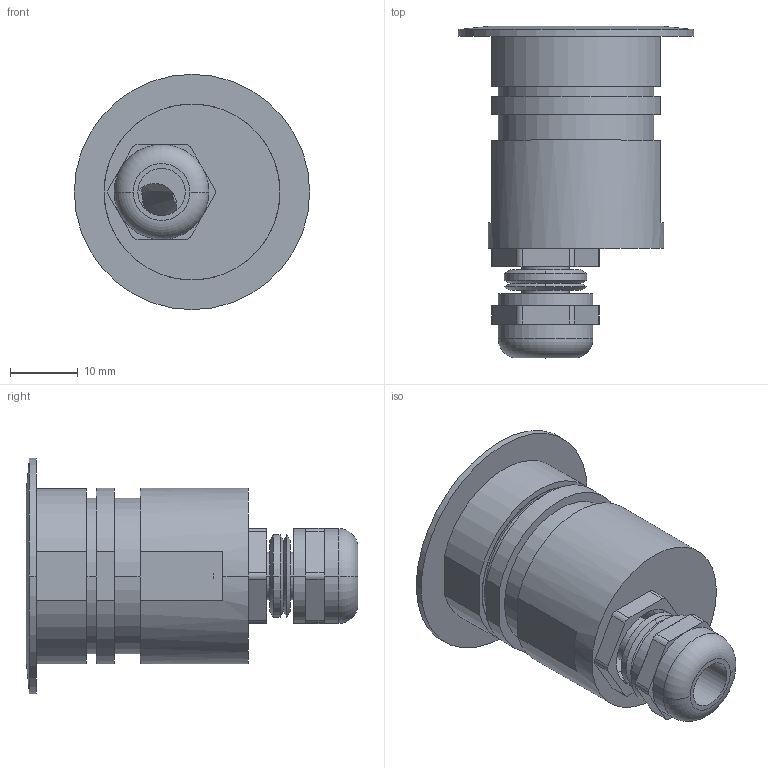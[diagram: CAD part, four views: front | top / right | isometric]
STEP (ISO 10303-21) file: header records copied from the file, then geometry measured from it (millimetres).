
FILE_DESCRIPTION((''),'2;1');
FILE_NAME('RAPPR_DI_DEFAULT_SW0001','2025-06-24T08:54:35',('Piccioli'),(''),'CREO PARAMETRIC BY PTC INC, 2025010','CREO PARAMETRIC BY PTC INC, 2025010','');
FILE_SCHEMA(('CONFIG_CONTROL_DESIGN'));
Length unit declared in the file: millimetre
Products named in the file (1): RAPPR_DI_DEFAULT_SW0001
Bounding box: 34.8 x 49.05 x 34.8 mm (x, y, z)
Surface area: 9448.5 mm2 (no closed solid volume)
Topology: 0 solids, 26 shells, 153 faces, 591 edges, 469 vertices
Faces by surface type: plane 74, cylinder 56, cone 20, torus 3
Entity records: 7082 total; most frequent: CARTESIAN_POINT 2208, DIRECTION 983, ORIENTED_EDGE 875, EDGE_CURVE 587, VERTEX_POINT 469, AXIS2_PLACEMENT_3D 347, VECTOR 289, LINE 289
